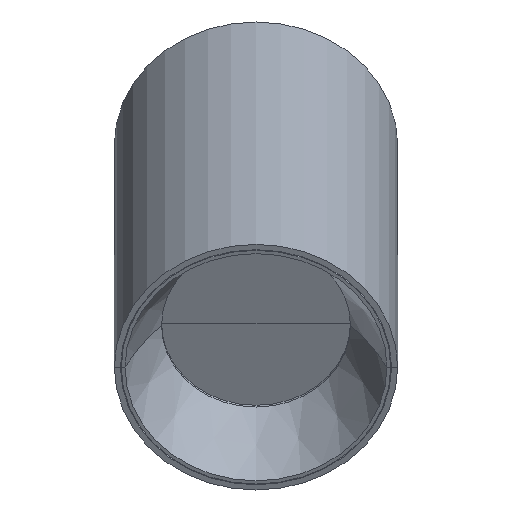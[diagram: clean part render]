
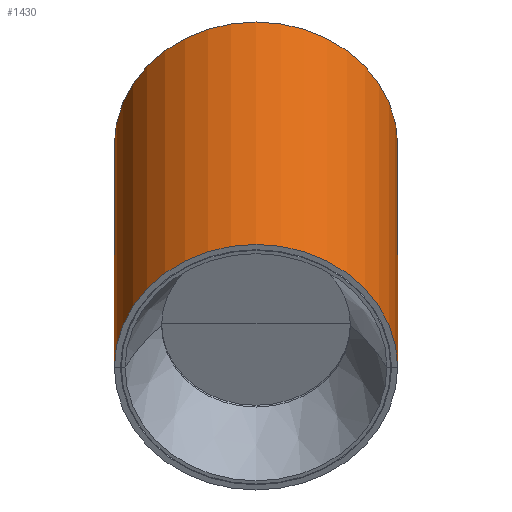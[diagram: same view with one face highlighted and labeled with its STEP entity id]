
A CAD part, top view. The second image highlights one B-rep face of the part: STEP entity #1430.
In plain terms, the highlighted cylindrical face has radius 30 mm (diameter 60 mm), a partial arc.
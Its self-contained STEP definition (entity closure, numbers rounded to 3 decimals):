
#89=CIRCLE('',#1553,30.);
#100=CIRCLE('',#1574,30.);
#262=FACE_OUTER_BOUND('',#357,.T.);
#357=EDGE_LOOP('',(#1148,#1149,#1150,#1151));
#462=LINE('',#2713,#566);
#463=LINE('',#2714,#567);
#566=VECTOR('',#1919,304.8);
#567=VECTOR('',#1920,304.8);
#664=VERTEX_POINT('',#2662);
#666=VERTEX_POINT('',#2666);
#675=VERTEX_POINT('',#2705);
#676=VERTEX_POINT('',#2707);
#823=EDGE_CURVE('',#664,#666,#89,.T.);
#843=EDGE_CURVE('',#676,#675,#100,.T.);
#846=EDGE_CURVE('',#664,#675,#462,.T.);
#847=EDGE_CURVE('',#676,#666,#463,.T.);
#1148=ORIENTED_EDGE('',*,*,#846,.F.);
#1149=ORIENTED_EDGE('',*,*,#823,.T.);
#1150=ORIENTED_EDGE('',*,*,#847,.F.);
#1151=ORIENTED_EDGE('',*,*,#843,.T.);
#1359=CYLINDRICAL_SURFACE('',#1577,30.);
#1430=ADVANCED_FACE('',(#262),#1359,.T.);
#1553=AXIS2_PLACEMENT_3D('',#2668,#1859,#1860);
#1574=AXIS2_PLACEMENT_3D('',#2708,#1910,#1911);
#1577=AXIS2_PLACEMENT_3D('',#2712,#1917,#1918);
#1859=DIRECTION('center_axis',(-0.5,0.,0.866));
#1860=DIRECTION('ref_axis',(0.,-1.,0.));
#1910=DIRECTION('center_axis',(0.5,0.,-0.866));
#1911=DIRECTION('ref_axis',(0.,-1.,0.));
#1917=DIRECTION('center_axis',(0.5,0.,-0.866));
#1918=DIRECTION('ref_axis',(0.,-1.,0.));
#1919=DIRECTION('',(-0.5,0.,0.866));
#1920=DIRECTION('',(0.5,0.,-0.866));
#2662=CARTESIAN_POINT('',(2.188,-30.,68.747));
#2666=CARTESIAN_POINT('',(2.188,30.,68.747));
#2668=CARTESIAN_POINT('Origin',(2.188,0.,68.747));
#2705=CARTESIAN_POINT('',(-45.063,-30.,150.588));
#2707=CARTESIAN_POINT('',(-45.063,30.,150.588));
#2708=CARTESIAN_POINT('Origin',(-45.063,0.,
150.588));
#2712=CARTESIAN_POINT('Origin',(-864.208,0.,
1569.39));
#2713=CARTESIAN_POINT('',(2.188,-30.,68.747));
#2714=CARTESIAN_POINT('',(-45.063,30.,150.588));
